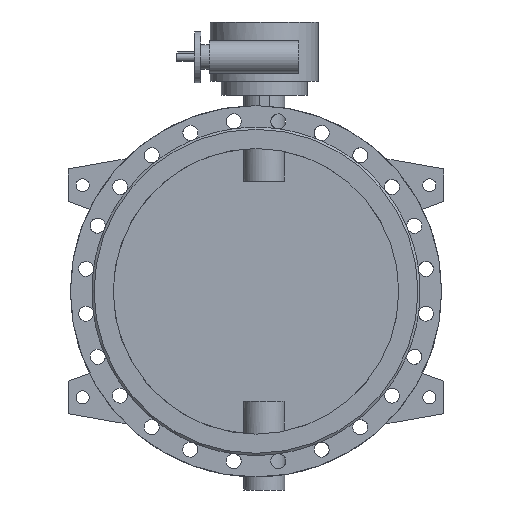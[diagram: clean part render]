
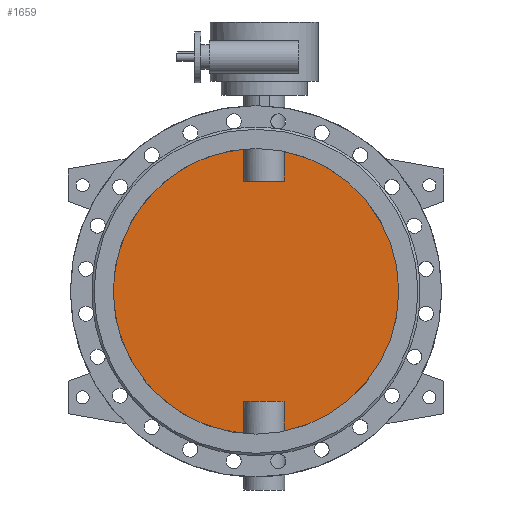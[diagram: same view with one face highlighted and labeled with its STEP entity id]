
A CAD part, front view. The second image highlights one B-rep face of the part: STEP entity #1659.
In plain terms, the highlighted planar face has unit normal (0, -1, 0).
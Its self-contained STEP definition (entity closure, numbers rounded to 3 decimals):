
#1659=ADVANCED_FACE('',(#3387),#3389,.F.);
#3387=FACE_BOUND('',#3388,.T.);
#3388=EDGE_LOOP('',(#4580,#4581,#4582,#4583,#4584,#4585,#4586,#4587));
#3389=PLANE('',#3390);
#3390=AXIS2_PLACEMENT_3D('',#3391,#3392,#3393);
#3391=CARTESIAN_POINT('',(0.,-5.,0.));
#3392=DIRECTION('',(0.,1.,0.));
#3393=DIRECTION('',(1.,0.,0.));
#4580=ORIENTED_EDGE('',*,*,#5172,.T.);
#4581=ORIENTED_EDGE('',*,*,#5182,.T.);
#4582=ORIENTED_EDGE('',*,*,#5183,.T.);
#4583=ORIENTED_EDGE('',*,*,#5184,.T.);
#4584=ORIENTED_EDGE('',*,*,#5174,.T.);
#4585=ORIENTED_EDGE('',*,*,#5185,.T.);
#4586=ORIENTED_EDGE('',*,*,#5186,.T.);
#4587=ORIENTED_EDGE('',*,*,#5187,.T.);
#5172=EDGE_CURVE('',#6143,#6144,#6145,.F.);
#5174=EDGE_CURVE('',#6148,#6146,#6149,.F.);
#5182=EDGE_CURVE('',#6144,#6163,#6164,.T.);
#5183=EDGE_CURVE('',#6163,#6165,#6166,.F.);
#5184=EDGE_CURVE('',#6165,#6148,#6167,.F.);
#5185=EDGE_CURVE('',#6146,#6168,#6169,.F.);
#5186=EDGE_CURVE('',#6168,#6170,#6171,.F.);
#5187=EDGE_CURVE('',#6170,#6143,#6172,.T.);
#6143=VERTEX_POINT('',#11034);
#6144=VERTEX_POINT('',#11035);
#6145=CIRCLE('',#11036,350.);
#6146=VERTEX_POINT('',#11040);
#6148=VERTEX_POINT('',#11082);
#6149=CIRCLE('',#11083,350.);
#6163=VERTEX_POINT('',#11225);
#6164=LINE('',#11226,#11227);
#6165=VERTEX_POINT('',#11229);
#6166=LINE('',#11230,#11231);
#6167=LINE('',#11233,#11234);
#6168=VERTEX_POINT('',#11236);
#6169=LINE('',#11237,#11238);
#6170=VERTEX_POINT('',#11240);
#6171=LINE('',#11241,#11242);
#6172=LINE('',#11244,#11245);
#11034=CARTESIAN_POINT('',(69.749,-5.,-342.98));
#11035=CARTESIAN_POINT('',(69.749,-5.,342.98));
#11036=AXIS2_PLACEMENT_3D('',#11037,#11038,#11039);
#11037=CARTESIAN_POINT('',(0.,-5.,0.));
#11038=DIRECTION('',(0.,1.,0.));
#11039=DIRECTION('',(0.199,0.,0.98));
#11040=CARTESIAN_POINT('',(-29.749,-5.,-348.733));
#11082=CARTESIAN_POINT('',(-29.749,-5.,348.733));
#11083=AXIS2_PLACEMENT_3D('',#11084,#11085,#11086);
#11084=CARTESIAN_POINT('',(0.,-5.,0.));
#11085=DIRECTION('',(0.,1.,0.));
#11086=DIRECTION('',(-0.085,0.,-0.996));
#11225=CARTESIAN_POINT('',(69.749,-5.,270.));
#11226=CARTESIAN_POINT('',(69.749,-5.,342.98));
#11227=VECTOR('',#11228,1.);
#11228=DIRECTION('',(0.,0.,-1.));
#11229=CARTESIAN_POINT('',(-29.749,-5.,270.));
#11230=CARTESIAN_POINT('',(-29.749,-5.,270.));
#11231=VECTOR('',#11232,1.);
#11232=DIRECTION('',(1.,0.,0.));
#11233=CARTESIAN_POINT('',(-29.749,-5.,348.733));
#11234=VECTOR('',#11235,1.);
#11235=DIRECTION('',(0.,0.,-1.));
#11236=CARTESIAN_POINT('',(-29.749,-5.,-270.));
#11237=CARTESIAN_POINT('',(-29.749,-5.,-270.));
#11238=VECTOR('',#11239,1.);
#11239=DIRECTION('',(0.,0.,-1.));
#11240=CARTESIAN_POINT('',(69.749,-5.,-270.));
#11241=CARTESIAN_POINT('',(69.749,-5.,-270.));
#11242=VECTOR('',#11243,1.);
#11243=DIRECTION('',(-1.,0.,0.));
#11244=CARTESIAN_POINT('',(69.749,-5.,-270.));
#11245=VECTOR('',#11246,1.);
#11246=DIRECTION('',(0.,0.,-1.));
